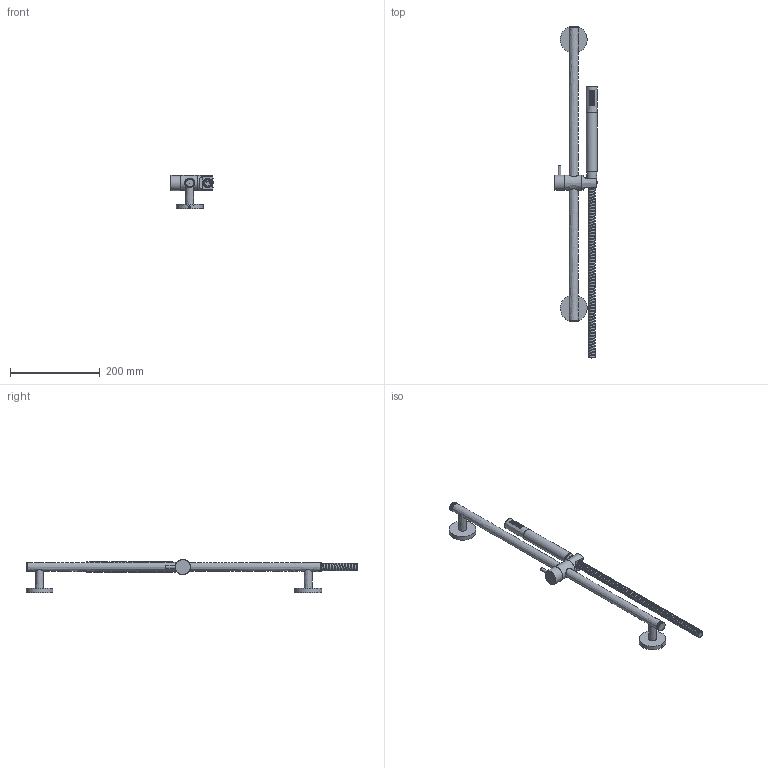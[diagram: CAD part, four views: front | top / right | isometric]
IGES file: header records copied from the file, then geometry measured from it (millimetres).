
Global section: file name: fda70322-afb0-42da-832d-811b88a8139d; native system: unknown; preprocessor: unknown; author: unknown; organization: unknown; date: 20191126.120251; units: millimetre
Bounding box: 94.3 x 741.19 x 74 mm (x, y, z)
Volume: 260744.7 mm3; surface area: 226046.9 mm2
Topology: 24 solids, 24 shells, 492 faces, 1231 edges, 807 vertices
Faces by surface type: bspline 492
